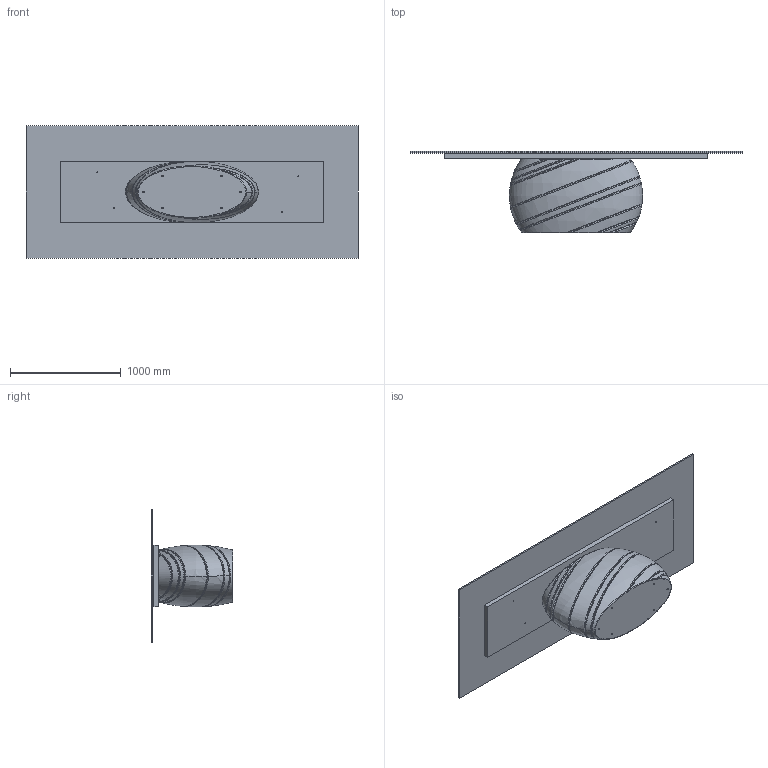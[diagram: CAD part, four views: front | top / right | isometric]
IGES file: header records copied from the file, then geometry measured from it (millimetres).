
Start section: SolidWorks IGES file using analytic representation for surfaces
Global section: file name: Y:\eforma\TECNICO\SOLIDWORKS\E-FORMA\1-TAVOLI\GIOVE\08 modelli 3D web\GI24G.IGS; native system: SolidWorks 2022; preprocessor: SolidWorks 2022; author: eforma.tech; date: 250422.161843; units: millimetre
Bounding box: 3000 x 737 x 1200 mm (x, y, z)
Volume: 423809860.8 mm3; surface area: 12990513.7 mm2
Topology: 3 solids, 3 shells, 148 faces, 357 edges, 230 vertices
Faces by surface type: revolution 60, bspline 53, plane 35
